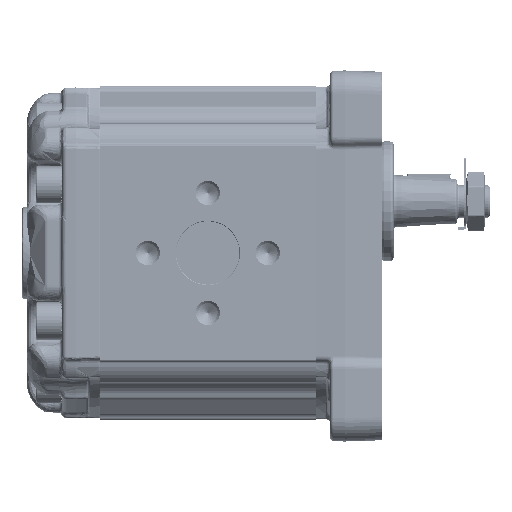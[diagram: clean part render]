
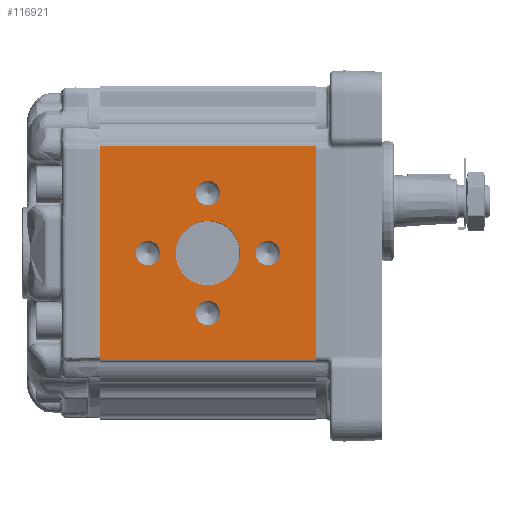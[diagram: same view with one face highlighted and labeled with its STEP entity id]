
A CAD part, left-side view. The second image highlights one B-rep face of the part: STEP entity #116921.
In plain terms, the highlighted planar face has unit normal (-1, 0, 0).
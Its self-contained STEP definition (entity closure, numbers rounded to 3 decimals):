
#6836=PLANE('',#123591);
#9664=LINE('',#179862,#14523);
#9675=LINE('',#179947,#14534);
#9713=LINE('',#180055,#14572);
#9714=LINE('',#180056,#14573);
#14523=VECTOR('',#137571,1000.);
#14534=VECTOR('',#137646,1000.);
#14572=VECTOR('',#137772,1000.);
#14573=VECTOR('',#137773,1000.);
#29612=ORIENTED_EDGE('',*,*,#50603,.T.);
#29613=ORIENTED_EDGE('',*,*,#50604,.T.);
#29614=ORIENTED_EDGE('',*,*,#50605,.T.);
#29615=ORIENTED_EDGE('',*,*,#50606,.T.);
#29616=ORIENTED_EDGE('',*,*,#50607,.T.);
#29617=ORIENTED_EDGE('',*,*,#50507,.F.);
#29618=ORIENTED_EDGE('',*,*,#50608,.T.);
#29619=ORIENTED_EDGE('',*,*,#50549,.F.);
#29620=ORIENTED_EDGE('',*,*,#50609,.T.);
#50507=EDGE_CURVE('',#61868,#61869,#9664,.T.);
#50549=EDGE_CURVE('',#61910,#61911,#9675,.T.);
#50603=EDGE_CURVE('',#61932,#61932,#68744,.F.);
#50604=EDGE_CURVE('',#61933,#61933,#68745,.F.);
#50605=EDGE_CURVE('',#61934,#61934,#68746,.F.);
#50606=EDGE_CURVE('',#61935,#61935,#68747,.F.);
#50607=EDGE_CURVE('',#61936,#61936,#68748,.F.);
#50608=EDGE_CURVE('',#61868,#61911,#9713,.F.);
#50609=EDGE_CURVE('',#61910,#61869,#9714,.F.);
#61868=VERTEX_POINT('',#179861);
#61869=VERTEX_POINT('',#179863);
#61910=VERTEX_POINT('',#179946);
#61911=VERTEX_POINT('',#179948);
#61932=VERTEX_POINT('',#180046);
#61933=VERTEX_POINT('',#180048);
#61934=VERTEX_POINT('',#180050);
#61935=VERTEX_POINT('',#180052);
#61936=VERTEX_POINT('',#180054);
#68744=CIRCLE('',#123592,5.188);
#68745=CIRCLE('',#123593,5.188);
#68746=CIRCLE('',#123594,5.188);
#68747=CIRCLE('',#123595,5.188);
#68748=CIRCLE('',#123596,13.7);
#72994=EDGE_LOOP('',(#29612));
#72995=EDGE_LOOP('',(#29613));
#72996=EDGE_LOOP('',(#29614));
#72997=EDGE_LOOP('',(#29615));
#72998=EDGE_LOOP('',(#29616));
#72999=EDGE_LOOP('',(#29617,#29618,#29619,#29620));
#78060=FACE_BOUND('',#72994,.T.);
#78061=FACE_BOUND('',#72995,.T.);
#78062=FACE_BOUND('',#72996,.T.);
#78063=FACE_BOUND('',#72997,.T.);
#78064=FACE_BOUND('',#72998,.T.);
#78065=FACE_BOUND('',#72999,.T.);
#116921=ADVANCED_FACE('',(#78060,#78061,#78062,#78063,#78064,#78065),#6836,
 .T.);
#123591=AXIS2_PLACEMENT_3D('',#180044,#137760,#137761);
#123592=AXIS2_PLACEMENT_3D('',#180045,#137762,#137763);
#123593=AXIS2_PLACEMENT_3D('',#180047,#137764,#137765);
#123594=AXIS2_PLACEMENT_3D('',#180049,#137766,#137767);
#123595=AXIS2_PLACEMENT_3D('',#180051,#137768,#137769);
#123596=AXIS2_PLACEMENT_3D('',#180053,#137770,#137771);
#137571=DIRECTION('',(0.,0.,1.));
#137646=DIRECTION('',(0.,0.,-1.));
#137760=DIRECTION('',(-1.,0.,0.));
#137761=DIRECTION('',(0.,0.,-1.));
#137762=DIRECTION('',(-1.,0.,0.));
#137763=DIRECTION('',(0.,0.,-1.));
#137764=DIRECTION('',(-1.,0.,0.));
#137765=DIRECTION('',(0.,0.,-1.));
#137766=DIRECTION('',(-1.,0.,0.));
#137767=DIRECTION('',(0.,0.,-1.));
#137768=DIRECTION('',(-1.,0.,0.));
#137769=DIRECTION('',(0.,0.,-1.));
#137770=DIRECTION('',(-1.,0.,0.));
#137771=DIRECTION('',(0.,0.,-1.));
#137772=DIRECTION('',(0.,1.,0.));
#137773=DIRECTION('',(0.,-1.,0.));
#179861=CARTESIAN_POINT('',(-57.5,92.,-45.5));
#179862=CARTESIAN_POINT('',(-57.5,92.,-84.819));
#179863=CARTESIAN_POINT('',(-57.5,92.,45.5));
#179946=CARTESIAN_POINT('',(-57.5,0.,45.5));
#179947=CARTESIAN_POINT('',(-57.5,0.,-44.978));
#179948=CARTESIAN_POINT('',(-57.5,0.,-45.5));
#180044=CARTESIAN_POINT('',(-57.5,-138.655,-84.819));
#180045=CARTESIAN_POINT('',(-57.5,46.,25.5));
#180046=CARTESIAN_POINT('',(-57.5,46.,20.312));
#180047=CARTESIAN_POINT('',(-57.5,71.5,0.));
#180048=CARTESIAN_POINT('',(-57.5,71.5,-5.188));
#180049=CARTESIAN_POINT('',(-57.5,46.,-25.5));
#180050=CARTESIAN_POINT('',(-57.5,46.,-30.688));
#180051=CARTESIAN_POINT('',(-57.5,20.5,0.));
#180052=CARTESIAN_POINT('',(-57.5,20.5,-5.188));
#180053=CARTESIAN_POINT('',(-57.5,46.,0.));
#180054=CARTESIAN_POINT('',(-57.5,46.,-13.7));
#180055=CARTESIAN_POINT('',(-57.5,-138.655,-45.5));
#180056=CARTESIAN_POINT('',(-57.5,-138.655,45.5));
